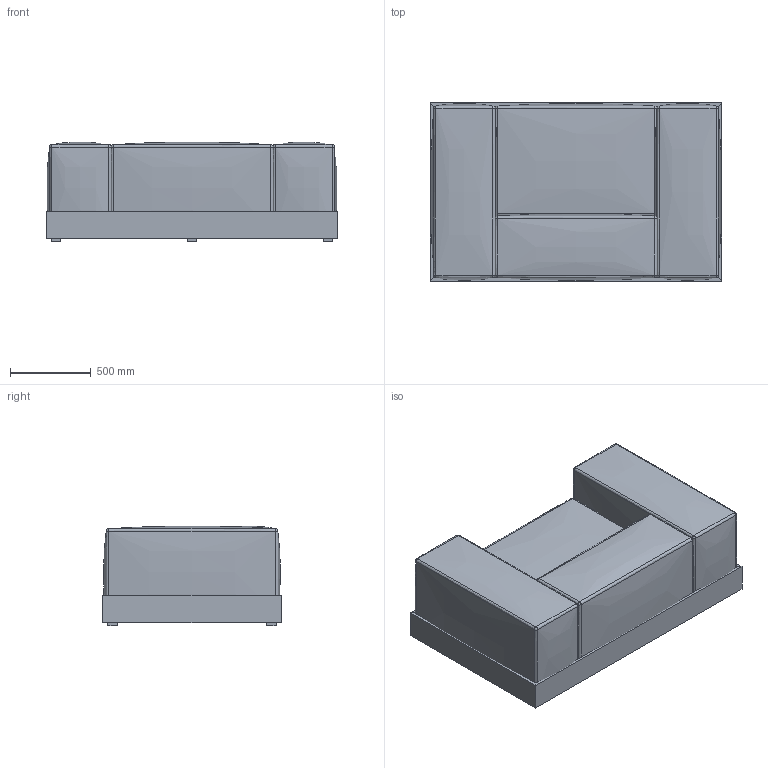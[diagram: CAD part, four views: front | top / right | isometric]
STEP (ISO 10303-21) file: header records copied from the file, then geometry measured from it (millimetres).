
FILE_DESCRIPTION(/* description */ (''),/* implementation_level */ '2;1');
FILE_NAME(/* name */ 'Polp1 180 brl.step',/* time_stamp */ '2024-01-07T09:58:31+01:00',/* author */ (''),/* organization */ (''),/* preprocessor_version */ 'ST-DEVELOPER v20',/* originating_system */ 'Autodesk Translation Framework v12.14.0.127',/* authorisation */ '');
FILE_SCHEMA (('AUTOMOTIVE_DESIGN { 1 0 10303 214 3 1 1 }'));
Length unit declared in the file: millimetre
Products named in the file (1): Polp1 180 brl
Bounding box: 1800 x 1100 x 615 mm (x, y, z)
Volume: 970874579.1 mm3; surface area: 15736957 mm2
Topology: 20 solids, 20 shells, 200 faces, 384 edges, 224 vertices
Faces by surface type: plane 101, bspline 66, sphere 32, cylinder 1
Entity records: 12820 total; most frequent: CARTESIAN_POINT 9085, ORIENTED_EDGE 768, DIRECTION 656, EDGE_CURVE 384, AXIS2_PLACEMENT_3D 231, VERTEX_POINT 224, FACE_OUTER_BOUND 200, EDGE_LOOP 200
